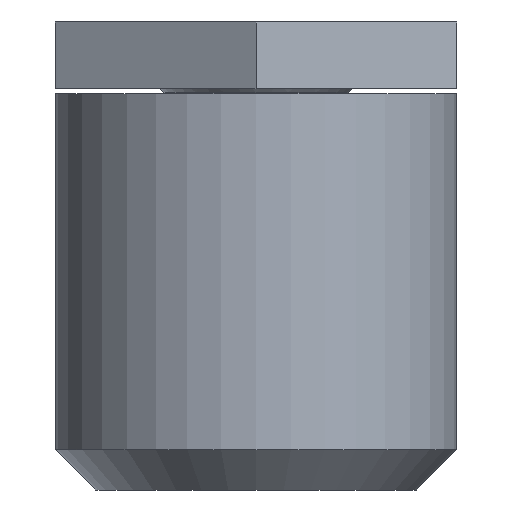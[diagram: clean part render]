
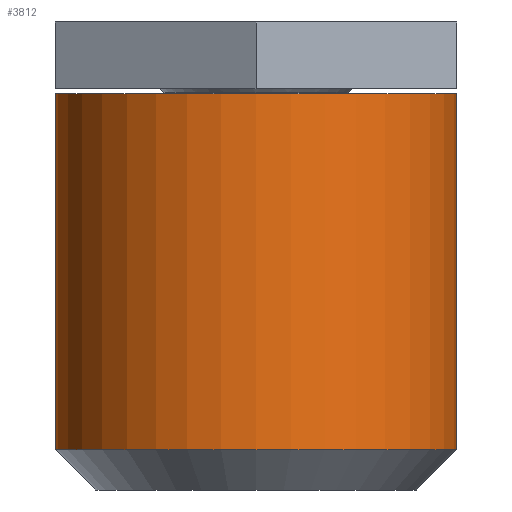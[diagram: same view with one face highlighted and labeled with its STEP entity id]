
A CAD part, front view. The second image highlights one B-rep face of the part: STEP entity #3812.
In plain terms, the highlighted cylindrical face has radius 15 mm (diameter 30 mm), a full revolution.
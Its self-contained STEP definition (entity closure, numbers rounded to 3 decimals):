
#18=CYLINDRICAL_SURFACE('',#3968,15.);
#33=CIRCLE('',#3959,15.);
#37=CIRCLE('',#3967,15.);
#473=FACE_OUTER_BOUND('',#688,.T.);
#688=EDGE_LOOP('',(#3490,#3491,#3492,#3493));
#1082=LINE('',#6713,#1475);
#1475=VECTOR('',#4645,15.);
#1837=VERTEX_POINT('',#6695);
#1841=VERTEX_POINT('',#6709);
#2384=EDGE_CURVE('',#1837,#1837,#33,.T.);
#2391=EDGE_CURVE('',#1841,#1841,#37,.T.);
#2392=EDGE_CURVE('',#1841,#1837,#1082,.T.);
#3490=ORIENTED_EDGE('',*,*,#2391,.F.);
#3491=ORIENTED_EDGE('',*,*,#2392,.T.);
#3492=ORIENTED_EDGE('',*,*,#2384,.T.);
#3493=ORIENTED_EDGE('',*,*,#2392,.F.);
#3812=ADVANCED_FACE('',(#473),#18,.T.);
#3959=AXIS2_PLACEMENT_3D('',#6696,#4622,#4623);
#3967=AXIS2_PLACEMENT_3D('',#6711,#4641,#4642);
#3968=AXIS2_PLACEMENT_3D('',#6712,#4643,#4644);
#4622=DIRECTION('center_axis',(0.,0.,-1.));
#4623=DIRECTION('ref_axis',(1.,0.,0.));
#4641=DIRECTION('center_axis',(0.,0.,-1.));
#4642=DIRECTION('ref_axis',(1.,0.,0.));
#4643=DIRECTION('center_axis',(0.,0.,-1.));
#4644=DIRECTION('ref_axis',(1.,0.,0.));
#4645=DIRECTION('',(0.,0.,1.));
#6695=CARTESIAN_POINT('',(-15.,-85.,-28.35));
#6696=CARTESIAN_POINT('Origin',(0.,-85.,-28.35));
#6709=CARTESIAN_POINT('',(-15.,-85.,-55.));
#6711=CARTESIAN_POINT('Origin',(0.,-85.,-55.));
#6712=CARTESIAN_POINT('Origin',(0.,-85.,-28.));
#6713=CARTESIAN_POINT('',(-15.,-85.,-28.));
